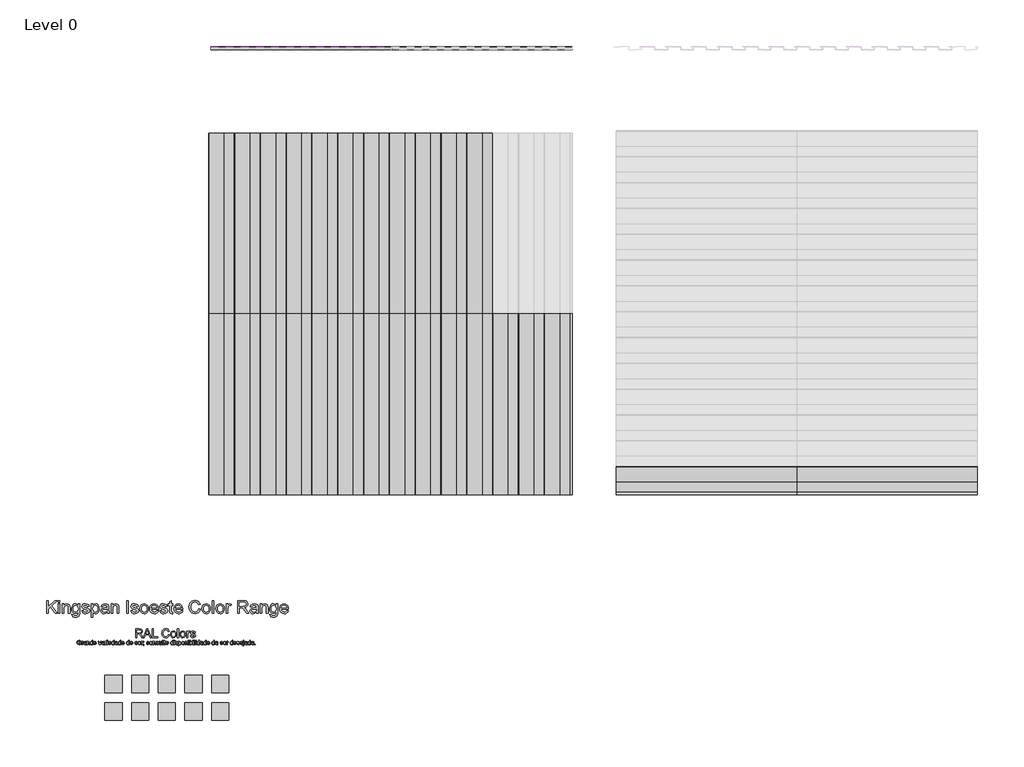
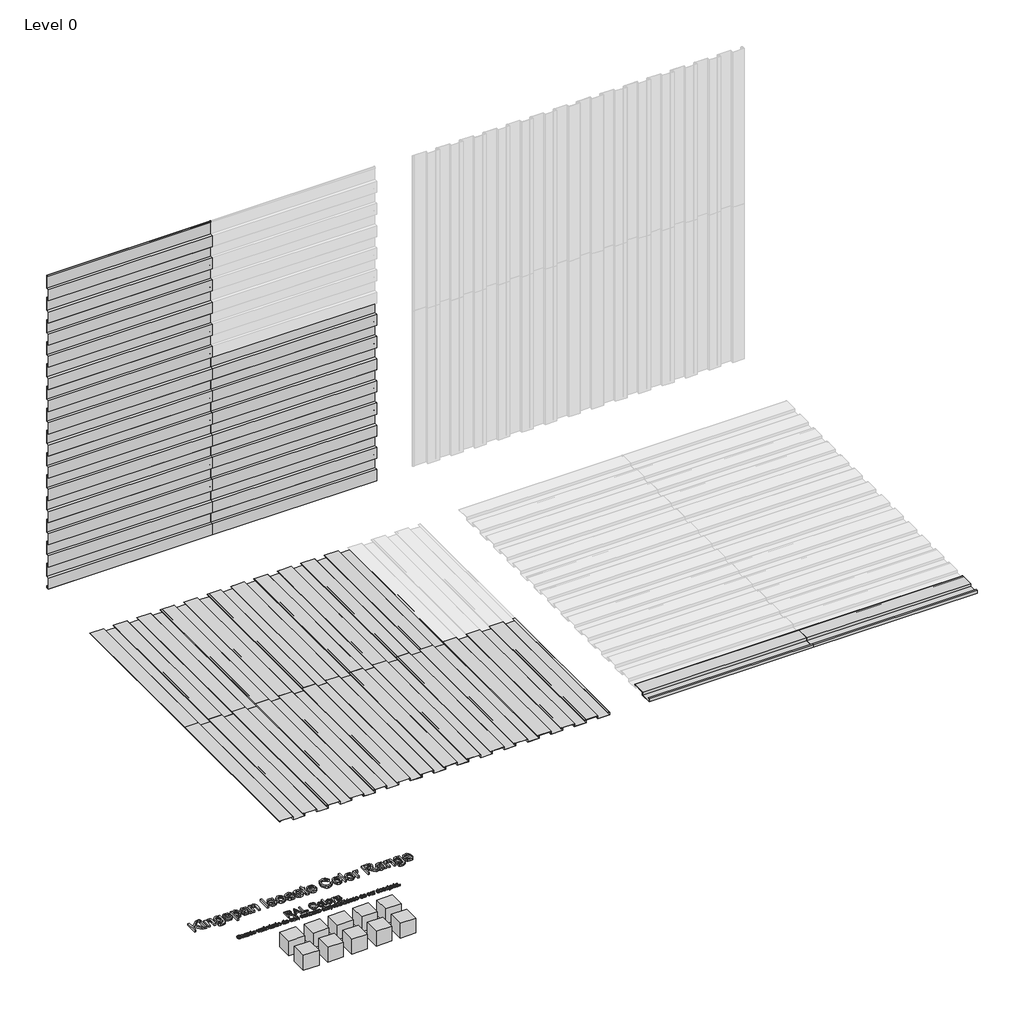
# One storey, part 1 of 2: 60 proxies.
"""IFC4 building model written with IfcOpenShell, lengths in millimetres."""

from ifc_helpers import new_model, si_unit, origin, place, context, project, spatial, transform, mapped, element, save
from components import proxy_32_ks_iso_colour_range_8220f766, proxy_32_ks_iso_colour_range_06d69407, ks_colour_sample_ks_colour_sample_0243efec, mx10_0_standard_panel_ns_11ffd0d8, mx10_0_standard_panel_ns_1686077b

model = new_model("IFC4")

# Units and contexts
model_context = context("Model", 3, world=origin())
ifc_project = project(units=[si_unit("LENGTHUNIT", "METRE", prefix="MILLI")], contexts=[model_context])

# Site, building, storey
site = spatial("IfcSite", under=ifc_project)
building = spatial("IfcBuilding", under=site)
storey = spatial("IfcBuildingStorey", under=building, Name="Level 0", Elevation=0.0)

# Proxies
placement = place(None, origin())
proxy_32_ks_iso_colour_range_shape = proxy_32_ks_iso_colour_range_8220f766(model_context)
proxy_32_ks_iso_colour_range_2_shape = proxy_32_ks_iso_colour_range_06d69407(model_context)
element("IfcBuildingElementProxy", 1, Name="32-KS-ISO-Colour Range : Kingspan Isoeste Color Range", ObjectType="32-KS-ISO-Colour Range : Kingspan Isoeste Color Range", at=placement, inside=storey, context=model_context, shape_type="MappedRepresentation", body=[
    mapped(proxy_32_ks_iso_colour_range_shape, transform((-3929.8390717, -2223.0925896, 0.0), x_axis=(1.0, 0.0, 0.0), y_axis=(0.0, 1.0, 0.0), z_axis=(0.0, 0.0, 1.0))),
    mapped(proxy_32_ks_iso_colour_range_2_shape, transform((-3929.8390717, -2223.0925896, 0.0), x_axis=(1.0, 0.0, 0.0), y_axis=(0.0, 1.0, 0.0), z_axis=(0.0, 0.0, 1.0))),
])
ks_colour_sample_ks_colour_sample_shape = ks_colour_sample_ks_colour_sample_0243efec(model_context)
element("IfcBuildingElementProxy", 2, Name="KS_Colour Sample : KS_Colour Sample", ObjectType="KS_Colour Sample : KS_Colour Sample", at=placement, inside=storey, context=model_context, shape_type="MappedRepresentation", body=[
    mapped(ks_colour_sample_ks_colour_sample_shape, transform((-3309.8390717, -2663.0925896, 0.0), x_axis=(1.0, 0.0, 0.0), y_axis=(0.0, 1.0, 0.0), z_axis=(0.0, 0.0, 1.0))),
])
element("IfcBuildingElementProxy", 3, Name="KS_Colour Sample : KS_Colour Sample", ObjectType="KS_Colour Sample : KS_Colour Sample", at=placement, inside=storey, context=model_context, shape_type="MappedRepresentation", body=[
    mapped(ks_colour_sample_ks_colour_sample_shape, transform((-3309.8390717, -2343.0925896, 0.0), x_axis=(1.0, 0.0, 0.0), y_axis=(0.0, 1.0, 0.0), z_axis=(0.0, 0.0, 1.0))),
])
element("IfcBuildingElementProxy", 4, Name="KS_Colour Sample : KS_Colour Sample", ObjectType="KS_Colour Sample : KS_Colour Sample", at=placement, inside=storey, context=model_context, shape_type="MappedRepresentation", body=[
    mapped(ks_colour_sample_ks_colour_sample_shape, transform((-4549.8390717, -2663.0925896, 0.0), x_axis=(1.0, 0.0, 0.0), y_axis=(0.0, 1.0, 0.0), z_axis=(0.0, 0.0, 1.0))),
])
element("IfcBuildingElementProxy", 5, Name="KS_Colour Sample : KS_Colour Sample", ObjectType="KS_Colour Sample : KS_Colour Sample", at=placement, inside=storey, context=model_context, shape_type="MappedRepresentation", body=[
    mapped(ks_colour_sample_ks_colour_sample_shape, transform((-4239.8390717, -2663.0925896, 0.0), x_axis=(1.0, 0.0, 0.0), y_axis=(0.0, 1.0, 0.0), z_axis=(0.0, 0.0, 1.0))),
])
element("IfcBuildingElementProxy", 6, Name="KS_Colour Sample : KS_Colour Sample", ObjectType="KS_Colour Sample : KS_Colour Sample", at=placement, inside=storey, context=model_context, shape_type="MappedRepresentation", body=[
    mapped(ks_colour_sample_ks_colour_sample_shape, transform((-3619.8390717, -2663.0925896, 0.0), x_axis=(1.0, 0.0, 0.0), y_axis=(0.0, 1.0, 0.0), z_axis=(0.0, 0.0, 1.0))),
])
element("IfcBuildingElementProxy", 7, Name="KS_Colour Sample : KS_Colour Sample", ObjectType="KS_Colour Sample : KS_Colour Sample", at=placement, inside=storey, context=model_context, shape_type="MappedRepresentation", body=[
    mapped(ks_colour_sample_ks_colour_sample_shape, transform((-4549.8390717, -2343.0925896, 0.0), x_axis=(1.0, 0.0, 0.0), y_axis=(0.0, 1.0, 0.0), z_axis=(0.0, 0.0, 1.0))),
])
element("IfcBuildingElementProxy", 8, Name="KS_Colour Sample : KS_Colour Sample", ObjectType="KS_Colour Sample : KS_Colour Sample", at=placement, inside=storey, context=model_context, shape_type="MappedRepresentation", body=[
    mapped(ks_colour_sample_ks_colour_sample_shape, transform((-4239.8390717, -2343.0925896, 0.0), x_axis=(1.0, 0.0, 0.0), y_axis=(0.0, 1.0, 0.0), z_axis=(0.0, 0.0, 1.0))),
])
element("IfcBuildingElementProxy", 9, Name="KS_Colour Sample : KS_Colour Sample", ObjectType="KS_Colour Sample : KS_Colour Sample", at=placement, inside=storey, context=model_context, shape_type="MappedRepresentation", body=[
    mapped(ks_colour_sample_ks_colour_sample_shape, transform((-3619.8390717, -2343.0925896, 0.0), x_axis=(1.0, 0.0, 0.0), y_axis=(0.0, 1.0, 0.0), z_axis=(0.0, 0.0, 1.0))),
])
element("IfcBuildingElementProxy", 10, Name="KS_Colour Sample : KS_Colour Sample", ObjectType="KS_Colour Sample : KS_Colour Sample", at=placement, inside=storey, context=model_context, shape_type="MappedRepresentation", body=[
    mapped(ks_colour_sample_ks_colour_sample_shape, transform((-3929.8390717, -2343.0925896, 0.0), x_axis=(1.0, 0.0, 0.0), y_axis=(0.0, 1.0, 0.0), z_axis=(0.0, 0.0, 1.0))),
])
element("IfcBuildingElementProxy", 11, Name="KS_Colour Sample : KS_Colour Sample", ObjectType="KS_Colour Sample : KS_Colour Sample", at=placement, inside=storey, context=model_context, shape_type="MappedRepresentation", body=[
    mapped(ks_colour_sample_ks_colour_sample_shape, transform((-3929.8390717, -2663.0925896, 0.0), x_axis=(1.0, 0.0, 0.0), y_axis=(0.0, 1.0, 0.0), z_axis=(0.0, 0.0, 1.0))),
])
mx10_0_standard_panel_ns_shape = mx10_0_standard_panel_ns_11ffd0d8(model_context)
element("IfcBuildingElementProxy", 12, Name="MX10.0 : Standard Panel_NS", ObjectType="MX10.0 : Standard Panel_NS", at=placement, inside=storey, context=model_context, shape_type="MappedRepresentation", body=[
    mapped(mx10_0_standard_panel_ns_shape, transform((-3417.7637295, 5063.0274074, 2100.0), x_axis=(1.0, 0.0, 0.0), y_axis=(0.0, 0.0, 1.0), z_axis=(0.0, -1.0, 0.0))),
])
element("IfcBuildingElementProxy", 13, Name="MX10.0 : Standard Panel_NS", ObjectType="MX10.0 : Standard Panel_NS", at=placement, inside=storey, context=model_context, shape_type="MappedRepresentation", body=[
    mapped(mx10_0_standard_panel_ns_shape, transform((-1317.7637295, 5063.0274074, 2100.0), x_axis=(1.0, 0.0, 0.0), y_axis=(0.0, 0.0, 1.0), z_axis=(0.0, -1.0, 0.0))),
])
mx10_0_standard_panel_ns_2_shape = mx10_0_standard_panel_ns_1686077b(model_context)
element("IfcBuildingElementProxy", 14, Name="MX10.0 : Standard Panel_NS", ObjectType="MX10.0 : Standard Panel_NS", at=placement, inside=storey, context=model_context, shape_type="MappedRepresentation", body=[
    mapped(mx10_0_standard_panel_ns_2_shape, transform((-1317.7637297, -141.6886547, 0.0), x_axis=(0.0, 1.0, 0.0), y_axis=(-1.0, 0.0, 0.0), z_axis=(0.0, 0.0, 1.0))),
])
element("IfcBuildingElementProxy", 15, Name="MX10.0 : Standard Panel_NS", ObjectType="MX10.0 : Standard Panel_NS", at=placement, inside=storey, context=model_context, shape_type="MappedRepresentation", body=[
    mapped(mx10_0_standard_panel_ns_2_shape, transform((-1317.7637297, 1958.3113453, 0.0), x_axis=(0.0, 1.0, 0.0), y_axis=(-1.0, 0.0, 0.0), z_axis=(0.0, 0.0, 1.0))),
])
element("IfcBuildingElementProxy", 16, Name="MX10.0 : Standard Panel_NS", ObjectType="MX10.0 : Standard Panel_NS", at=placement, inside=storey, context=model_context, shape_type="MappedRepresentation", body=[
    mapped(mx10_0_standard_panel_ns_shape, transform((-3417.7637295, 5063.0274074, 0.0), x_axis=(1.0, 0.0, 0.0), y_axis=(0.0, 0.0, 1.0), z_axis=(0.0, -1.0, 0.0))),
])
element("IfcBuildingElementProxy", 17, Name="MX10.0 : Standard Panel_NS", ObjectType="MX10.0 : Standard Panel_NS", at=placement, inside=storey, context=model_context, shape_type="MappedRepresentation", body=[
    mapped(mx10_0_standard_panel_ns_shape, transform((-3417.7637295, 5063.0274074, 2400.0), x_axis=(1.0, 0.0, 0.0), y_axis=(0.0, 0.0, 1.0), z_axis=(0.0, -1.0, 0.0))),
])
element("IfcBuildingElementProxy", 18, Name="MX10.0 : Standard Panel_NS", ObjectType="MX10.0 : Standard Panel_NS", at=placement, inside=storey, context=model_context, shape_type="MappedRepresentation", body=[
    mapped(mx10_0_standard_panel_ns_shape, transform((-1317.7637295, 5063.0274074, 0.0), x_axis=(1.0, 0.0, 0.0), y_axis=(0.0, 0.0, 1.0), z_axis=(0.0, -1.0, 0.0))),
])
element("IfcBuildingElementProxy", 19, Name="MX10.0 : Standard Panel_NS", ObjectType="MX10.0 : Standard Panel_NS", at=placement, inside=storey, context=model_context, shape_type="MappedRepresentation", body=[
    mapped(mx10_0_standard_panel_ns_2_shape, transform((-1617.7637297, -141.6886547, 0.0), x_axis=(0.0, 1.0, 0.0), y_axis=(-1.0, 0.0, 0.0), z_axis=(0.0, 0.0, 1.0))),
])
element("IfcBuildingElementProxy", 20, Name="MX10.0 : Standard Panel_NS", ObjectType="MX10.0 : Standard Panel_NS", at=placement, inside=storey, context=model_context, shape_type="MappedRepresentation", body=[
    mapped(mx10_0_standard_panel_ns_2_shape, transform((1289.7088668, -141.6886547, 0.0), x_axis=(1.0, 0.0, 0.0), y_axis=(0.0, 1.0, 0.0), z_axis=(0.0, 0.0, 1.0))),
])
element("IfcBuildingElementProxy", 21, Name="MX10.0 : Standard Panel_NS", ObjectType="MX10.0 : Standard Panel_NS", at=placement, inside=storey, context=model_context, shape_type="MappedRepresentation", body=[
    mapped(mx10_0_standard_panel_ns_2_shape, transform((-1617.7637297, 1958.3113453, 0.0), x_axis=(0.0, 1.0, 0.0), y_axis=(-1.0, 0.0, 0.0), z_axis=(0.0, 0.0, 1.0))),
])
element("IfcBuildingElementProxy", 22, Name="MX10.0 : Standard Panel_NS", ObjectType="MX10.0 : Standard Panel_NS", at=placement, inside=storey, context=model_context, shape_type="MappedRepresentation", body=[
    mapped(mx10_0_standard_panel_ns_2_shape, transform((3389.7088668, -141.6886547, 0.0), x_axis=(1.0, 0.0, 0.0), y_axis=(0.0, 1.0, 0.0), z_axis=(0.0, 0.0, 1.0))),
])
element("IfcBuildingElementProxy", 23, Name="MX10.0 : Standard Panel_NS", ObjectType="MX10.0 : Standard Panel_NS", at=placement, inside=storey, context=model_context, shape_type="MappedRepresentation", body=[
    mapped(mx10_0_standard_panel_ns_2_shape, transform((782.2362705, -141.6886547, 0.0), x_axis=(0.0, 1.0, 0.0), y_axis=(-1.0, 0.0, 0.0), z_axis=(0.0, 0.0, 1.0))),
])
element("IfcBuildingElementProxy", 24, Name="MX10.0 : Standard Panel_NS", ObjectType="MX10.0 : Standard Panel_NS", at=placement, inside=storey, context=model_context, shape_type="MappedRepresentation", body=[
    mapped(mx10_0_standard_panel_ns_2_shape, transform((-3117.7637295, -141.6886547, 0.0), x_axis=(0.0, 1.0, 0.0), y_axis=(-1.0, 0.0, 0.0), z_axis=(0.0, 0.0, 1.0))),
])
element("IfcBuildingElementProxy", 25, Name="MX10.0 : Standard Panel_NS", ObjectType="MX10.0 : Standard Panel_NS", at=placement, inside=storey, context=model_context, shape_type="MappedRepresentation", body=[
    mapped(mx10_0_standard_panel_ns_2_shape, transform((-717.7637297, -141.6886547, 0.0), x_axis=(0.0, 1.0, 0.0), y_axis=(-1.0, 0.0, 0.0), z_axis=(0.0, 0.0, 1.0))),
])
element("IfcBuildingElementProxy", 26, Name="MX10.0 : Standard Panel_NS", ObjectType="MX10.0 : Standard Panel_NS", at=placement, inside=storey, context=model_context, shape_type="MappedRepresentation", body=[
    mapped(mx10_0_standard_panel_ns_2_shape, transform((-3117.7637295, 1958.3113453, 0.0), x_axis=(0.0, 1.0, 0.0), y_axis=(-1.0, 0.0, 0.0), z_axis=(0.0, 0.0, 1.0))),
])
element("IfcBuildingElementProxy", 27, Name="MX10.0 : Standard Panel_NS", ObjectType="MX10.0 : Standard Panel_NS", at=placement, inside=storey, context=model_context, shape_type="MappedRepresentation", body=[
    mapped(mx10_0_standard_panel_ns_2_shape, transform((-717.7637297, 1958.3113453, 0.0), x_axis=(0.0, 1.0, 0.0), y_axis=(-1.0, 0.0, 0.0), z_axis=(0.0, 0.0, 1.0))),
])
element("IfcBuildingElementProxy", 28, Name="MX10.0 : Standard Panel_NS", ObjectType="MX10.0 : Standard Panel_NS", at=placement, inside=storey, context=model_context, shape_type="MappedRepresentation", body=[
    mapped(mx10_0_standard_panel_ns_shape, transform((-3417.7637295, 5063.0274074, 1500.0), x_axis=(1.0, 0.0, 0.0), y_axis=(0.0, 0.0, 1.0), z_axis=(0.0, -1.0, 0.0))),
])
element("IfcBuildingElementProxy", 29, Name="MX10.0 : Standard Panel_NS", ObjectType="MX10.0 : Standard Panel_NS", at=placement, inside=storey, context=model_context, shape_type="MappedRepresentation", body=[
    mapped(mx10_0_standard_panel_ns_shape, transform((-3417.7637295, 5063.0274074, 3900.0), x_axis=(1.0, 0.0, 0.0), y_axis=(0.0, 0.0, 1.0), z_axis=(0.0, -1.0, 0.0))),
])
element("IfcBuildingElementProxy", 30, Name="MX10.0 : Standard Panel_NS", ObjectType="MX10.0 : Standard Panel_NS", at=placement, inside=storey, context=model_context, shape_type="MappedRepresentation", body=[
    mapped(mx10_0_standard_panel_ns_shape, transform((-1317.7637295, 5063.0274074, 1500.0), x_axis=(1.0, 0.0, 0.0), y_axis=(0.0, 0.0, 1.0), z_axis=(0.0, -1.0, 0.0))),
])
element("IfcBuildingElementProxy", 31, Name="MX10.0 : Standard Panel_NS", ObjectType="MX10.0 : Standard Panel_NS", at=placement, inside=storey, context=model_context, shape_type="MappedRepresentation", body=[
    mapped(mx10_0_standard_panel_ns_shape, transform((-3417.7637295, 5063.0274074, 300.0), x_axis=(1.0, 0.0, 0.0), y_axis=(0.0, 0.0, 1.0), z_axis=(0.0, -1.0, 0.0))),
])
element("IfcBuildingElementProxy", 32, Name="MX10.0 : Standard Panel_NS", ObjectType="MX10.0 : Standard Panel_NS", at=placement, inside=storey, context=model_context, shape_type="MappedRepresentation", body=[
    mapped(mx10_0_standard_panel_ns_shape, transform((-3417.7637295, 5063.0274074, 2700.0), x_axis=(1.0, 0.0, 0.0), y_axis=(0.0, 0.0, 1.0), z_axis=(0.0, -1.0, 0.0))),
])
element("IfcBuildingElementProxy", 33, Name="MX10.0 : Standard Panel_NS", ObjectType="MX10.0 : Standard Panel_NS", at=placement, inside=storey, context=model_context, shape_type="MappedRepresentation", body=[
    mapped(mx10_0_standard_panel_ns_shape, transform((-1317.7637295, 5063.0274074, 300.0), x_axis=(1.0, 0.0, 0.0), y_axis=(0.0, 0.0, 1.0), z_axis=(0.0, -1.0, 0.0))),
])
element("IfcBuildingElementProxy", 34, Name="MX10.0 : Standard Panel_NS", ObjectType="MX10.0 : Standard Panel_NS", at=placement, inside=storey, context=model_context, shape_type="MappedRepresentation", body=[
    mapped(mx10_0_standard_panel_ns_shape, transform((-3417.7637295, 5063.0274074, 600.0), x_axis=(1.0, 0.0, 0.0), y_axis=(0.0, 0.0, 1.0), z_axis=(0.0, -1.0, 0.0))),
])
element("IfcBuildingElementProxy", 35, Name="MX10.0 : Standard Panel_NS", ObjectType="MX10.0 : Standard Panel_NS", at=placement, inside=storey, context=model_context, shape_type="MappedRepresentation", body=[
    mapped(mx10_0_standard_panel_ns_shape, transform((-3417.7637295, 5063.0274074, 3000.0), x_axis=(1.0, 0.0, 0.0), y_axis=(0.0, 0.0, 1.0), z_axis=(0.0, -1.0, 0.0))),
])
element("IfcBuildingElementProxy", 36, Name="MX10.0 : Standard Panel_NS", ObjectType="MX10.0 : Standard Panel_NS", at=placement, inside=storey, context=model_context, shape_type="MappedRepresentation", body=[
    mapped(mx10_0_standard_panel_ns_shape, transform((-1317.7637295, 5063.0274074, 600.0), x_axis=(1.0, 0.0, 0.0), y_axis=(0.0, 0.0, 1.0), z_axis=(0.0, -1.0, 0.0))),
])
element("IfcBuildingElementProxy", 37, Name="MX10.0 : Standard Panel_NS", ObjectType="MX10.0 : Standard Panel_NS", at=placement, inside=storey, context=model_context, shape_type="MappedRepresentation", body=[
    mapped(mx10_0_standard_panel_ns_shape, transform((-3417.7637295, 5063.0274074, 900.0), x_axis=(1.0, 0.0, 0.0), y_axis=(0.0, 0.0, 1.0), z_axis=(0.0, -1.0, 0.0))),
])
element("IfcBuildingElementProxy", 38, Name="MX10.0 : Standard Panel_NS", ObjectType="MX10.0 : Standard Panel_NS", at=placement, inside=storey, context=model_context, shape_type="MappedRepresentation", body=[
    mapped(mx10_0_standard_panel_ns_shape, transform((-3417.7637295, 5063.0274074, 3300.0), x_axis=(1.0, 0.0, 0.0), y_axis=(0.0, 0.0, 1.0), z_axis=(0.0, -1.0, 0.0))),
])
element("IfcBuildingElementProxy", 39, Name="MX10.0 : Standard Panel_NS", ObjectType="MX10.0 : Standard Panel_NS", at=placement, inside=storey, context=model_context, shape_type="MappedRepresentation", body=[
    mapped(mx10_0_standard_panel_ns_shape, transform((-1317.7637295, 5063.0274074, 900.0), x_axis=(1.0, 0.0, 0.0), y_axis=(0.0, 0.0, 1.0), z_axis=(0.0, -1.0, 0.0))),
])
element("IfcBuildingElementProxy", 40, Name="MX10.0 : Standard Panel_NS", ObjectType="MX10.0 : Standard Panel_NS", at=placement, inside=storey, context=model_context, shape_type="MappedRepresentation", body=[
    mapped(mx10_0_standard_panel_ns_shape, transform((-3417.7637295, 5063.0274074, 1200.0), x_axis=(1.0, 0.0, 0.0), y_axis=(0.0, 0.0, 1.0), z_axis=(0.0, -1.0, 0.0))),
])
element("IfcBuildingElementProxy", 41, Name="MX10.0 : Standard Panel_NS", ObjectType="MX10.0 : Standard Panel_NS", at=placement, inside=storey, context=model_context, shape_type="MappedRepresentation", body=[
    mapped(mx10_0_standard_panel_ns_shape, transform((-3417.7637295, 5063.0274074, 3600.0), x_axis=(1.0, 0.0, 0.0), y_axis=(0.0, 0.0, 1.0), z_axis=(0.0, -1.0, 0.0))),
])
element("IfcBuildingElementProxy", 42, Name="MX10.0 : Standard Panel_NS", ObjectType="MX10.0 : Standard Panel_NS", at=placement, inside=storey, context=model_context, shape_type="MappedRepresentation", body=[
    mapped(mx10_0_standard_panel_ns_shape, transform((-1317.7637295, 5063.0274074, 1200.0), x_axis=(1.0, 0.0, 0.0), y_axis=(0.0, 0.0, 1.0), z_axis=(0.0, -1.0, 0.0))),
])
element("IfcBuildingElementProxy", 43, Name="MX10.0 : Standard Panel_NS", ObjectType="MX10.0 : Standard Panel_NS", at=placement, inside=storey, context=model_context, shape_type="MappedRepresentation", body=[
    mapped(mx10_0_standard_panel_ns_shape, transform((-3417.7637295, 5063.0274074, 1800.0), x_axis=(1.0, 0.0, 0.0), y_axis=(0.0, 0.0, 1.0), z_axis=(0.0, -1.0, 0.0))),
])
element("IfcBuildingElementProxy", 44, Name="MX10.0 : Standard Panel_NS", ObjectType="MX10.0 : Standard Panel_NS", at=placement, inside=storey, context=model_context, shape_type="MappedRepresentation", body=[
    mapped(mx10_0_standard_panel_ns_shape, transform((-1317.7637295, 5063.0274074, 1800.0), x_axis=(1.0, 0.0, 0.0), y_axis=(0.0, 0.0, 1.0), z_axis=(0.0, -1.0, 0.0))),
])
element("IfcBuildingElementProxy", 45, Name="MX10.0 : Standard Panel_NS", ObjectType="MX10.0 : Standard Panel_NS", at=placement, inside=storey, context=model_context, shape_type="MappedRepresentation", body=[
    mapped(mx10_0_standard_panel_ns_2_shape, transform((482.2362703, -141.6886547, 0.0), x_axis=(0.0, 1.0, 0.0), y_axis=(-1.0, 0.0, 0.0), z_axis=(0.0, 0.0, 1.0))),
])
element("IfcBuildingElementProxy", 46, Name="MX10.0 : Standard Panel_NS", ObjectType="MX10.0 : Standard Panel_NS", at=placement, inside=storey, context=model_context, shape_type="MappedRepresentation", body=[
    mapped(mx10_0_standard_panel_ns_2_shape, transform((-1917.7637297, -141.6886547, 0.0), x_axis=(0.0, 1.0, 0.0), y_axis=(-1.0, 0.0, 0.0), z_axis=(0.0, 0.0, 1.0))),
])
element("IfcBuildingElementProxy", 47, Name="MX10.0 : Standard Panel_NS", ObjectType="MX10.0 : Standard Panel_NS", at=placement, inside=storey, context=model_context, shape_type="MappedRepresentation", body=[
    mapped(mx10_0_standard_panel_ns_2_shape, transform((-1917.7637297, 1958.3113453, 0.0), x_axis=(0.0, 1.0, 0.0), y_axis=(-1.0, 0.0, 0.0), z_axis=(0.0, 0.0, 1.0))),
])
element("IfcBuildingElementProxy", 48, Name="MX10.0 : Standard Panel_NS", ObjectType="MX10.0 : Standard Panel_NS", at=placement, inside=storey, context=model_context, shape_type="MappedRepresentation", body=[
    mapped(mx10_0_standard_panel_ns_2_shape, transform((182.2362703, -141.6886547, 0.0), x_axis=(0.0, 1.0, 0.0), y_axis=(-1.0, 0.0, 0.0), z_axis=(0.0, 0.0, 1.0))),
])
element("IfcBuildingElementProxy", 49, Name="MX10.0 : Standard Panel_NS", ObjectType="MX10.0 : Standard Panel_NS", at=placement, inside=storey, context=model_context, shape_type="MappedRepresentation", body=[
    mapped(mx10_0_standard_panel_ns_2_shape, transform((-2217.7637297, -141.6886547, 0.0), x_axis=(0.0, 1.0, 0.0), y_axis=(-1.0, 0.0, 0.0), z_axis=(0.0, 0.0, 1.0))),
])
element("IfcBuildingElementProxy", 50, Name="MX10.0 : Standard Panel_NS", ObjectType="MX10.0 : Standard Panel_NS", at=placement, inside=storey, context=model_context, shape_type="MappedRepresentation", body=[
    mapped(mx10_0_standard_panel_ns_2_shape, transform((-2217.7637297, 1958.3113453, 0.0), x_axis=(0.0, 1.0, 0.0), y_axis=(-1.0, 0.0, 0.0), z_axis=(0.0, 0.0, 1.0))),
])
element("IfcBuildingElementProxy", 51, Name="MX10.0 : Standard Panel_NS", ObjectType="MX10.0 : Standard Panel_NS", at=placement, inside=storey, context=model_context, shape_type="MappedRepresentation", body=[
    mapped(mx10_0_standard_panel_ns_2_shape, transform((-117.7637297, -141.6886547, 0.0), x_axis=(0.0, 1.0, 0.0), y_axis=(-1.0, 0.0, 0.0), z_axis=(0.0, 0.0, 1.0))),
])
element("IfcBuildingElementProxy", 52, Name="MX10.0 : Standard Panel_NS", ObjectType="MX10.0 : Standard Panel_NS", at=placement, inside=storey, context=model_context, shape_type="MappedRepresentation", body=[
    mapped(mx10_0_standard_panel_ns_2_shape, transform((-2517.7637297, -141.6886547, 0.0), x_axis=(0.0, 1.0, 0.0), y_axis=(-1.0, 0.0, 0.0), z_axis=(0.0, 0.0, 1.0))),
])
element("IfcBuildingElementProxy", 53, Name="MX10.0 : Standard Panel_NS", ObjectType="MX10.0 : Standard Panel_NS", at=placement, inside=storey, context=model_context, shape_type="MappedRepresentation", body=[
    mapped(mx10_0_standard_panel_ns_2_shape, transform((-2517.7637297, 1958.3113453, 0.0), x_axis=(0.0, 1.0, 0.0), y_axis=(-1.0, 0.0, 0.0), z_axis=(0.0, 0.0, 1.0))),
])
element("IfcBuildingElementProxy", 54, Name="MX10.0 : Standard Panel_NS", ObjectType="MX10.0 : Standard Panel_NS", at=placement, inside=storey, context=model_context, shape_type="MappedRepresentation", body=[
    mapped(mx10_0_standard_panel_ns_2_shape, transform((-117.7637297, 1958.3113453, 0.0), x_axis=(0.0, 1.0, 0.0), y_axis=(-1.0, 0.0, 0.0), z_axis=(0.0, 0.0, 1.0))),
])
element("IfcBuildingElementProxy", 55, Name="MX10.0 : Standard Panel_NS", ObjectType="MX10.0 : Standard Panel_NS", at=placement, inside=storey, context=model_context, shape_type="MappedRepresentation", body=[
    mapped(mx10_0_standard_panel_ns_2_shape, transform((-417.7637297, -141.6886547, 0.0), x_axis=(0.0, 1.0, 0.0), y_axis=(-1.0, 0.0, 0.0), z_axis=(0.0, 0.0, 1.0))),
])
element("IfcBuildingElementProxy", 56, Name="MX10.0 : Standard Panel_NS", ObjectType="MX10.0 : Standard Panel_NS", at=placement, inside=storey, context=model_context, shape_type="MappedRepresentation", body=[
    mapped(mx10_0_standard_panel_ns_2_shape, transform((-2817.7637297, -141.6886547, 0.0), x_axis=(0.0, 1.0, 0.0), y_axis=(-1.0, 0.0, 0.0), z_axis=(0.0, 0.0, 1.0))),
])
element("IfcBuildingElementProxy", 57, Name="MX10.0 : Standard Panel_NS", ObjectType="MX10.0 : Standard Panel_NS", at=placement, inside=storey, context=model_context, shape_type="MappedRepresentation", body=[
    mapped(mx10_0_standard_panel_ns_2_shape, transform((-2817.7637297, 1958.3113453, 0.0), x_axis=(0.0, 1.0, 0.0), y_axis=(-1.0, 0.0, 0.0), z_axis=(0.0, 0.0, 1.0))),
])
element("IfcBuildingElementProxy", 58, Name="MX10.0 : Standard Panel_NS", ObjectType="MX10.0 : Standard Panel_NS", at=placement, inside=storey, context=model_context, shape_type="MappedRepresentation", body=[
    mapped(mx10_0_standard_panel_ns_2_shape, transform((-417.7637297, 1958.3113453, 0.0), x_axis=(0.0, 1.0, 0.0), y_axis=(-1.0, 0.0, 0.0), z_axis=(0.0, 0.0, 1.0))),
])
element("IfcBuildingElementProxy", 59, Name="MX10.0 : Standard Panel_NS", ObjectType="MX10.0 : Standard Panel_NS", at=placement, inside=storey, context=model_context, shape_type="MappedRepresentation", body=[
    mapped(mx10_0_standard_panel_ns_2_shape, transform((-1017.7637297, -141.6886547, 0.0), x_axis=(0.0, 1.0, 0.0), y_axis=(-1.0, 0.0, 0.0), z_axis=(0.0, 0.0, 1.0))),
])
element("IfcBuildingElementProxy", 60, Name="MX10.0 : Standard Panel_NS", ObjectType="MX10.0 : Standard Panel_NS", at=placement, inside=storey, context=model_context, shape_type="MappedRepresentation", body=[
    mapped(mx10_0_standard_panel_ns_2_shape, transform((-1017.7637297, 1958.3113453, 0.0), x_axis=(0.0, 1.0, 0.0), y_axis=(-1.0, 0.0, 0.0), z_axis=(0.0, 0.0, 1.0))),
])

save(model, "model.ifc")
